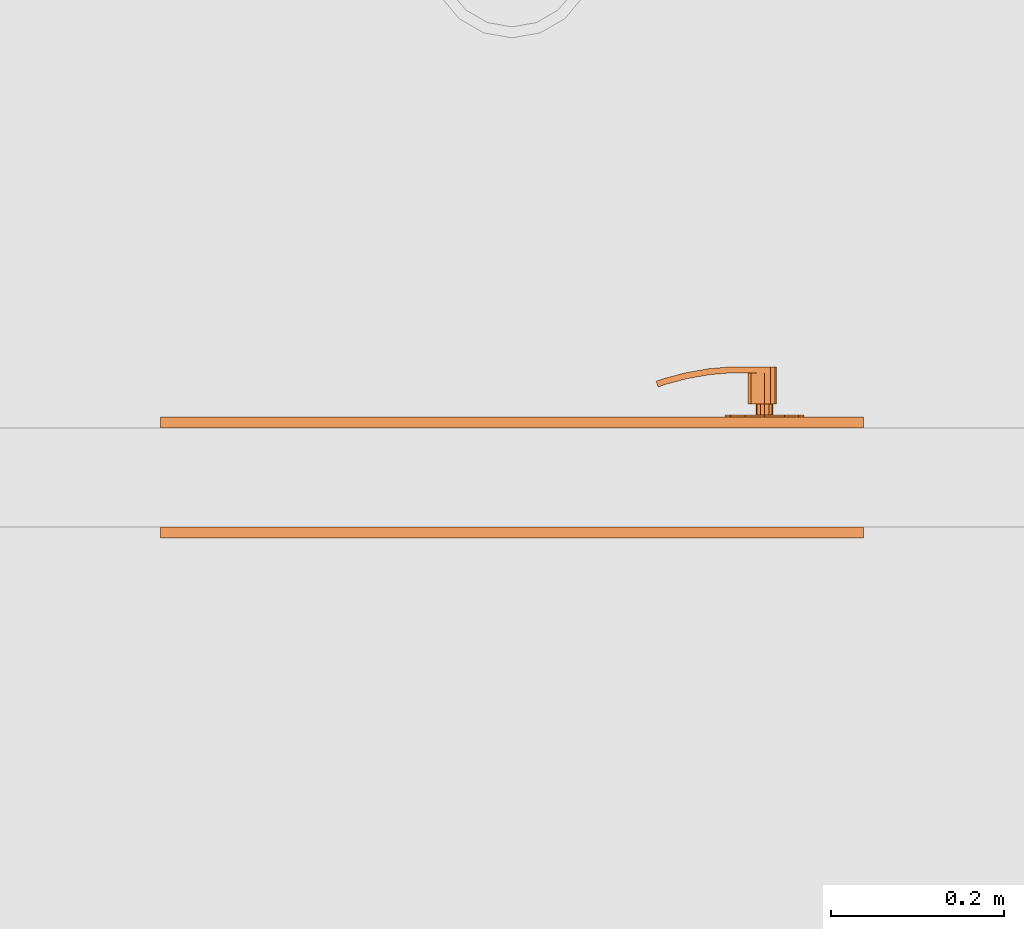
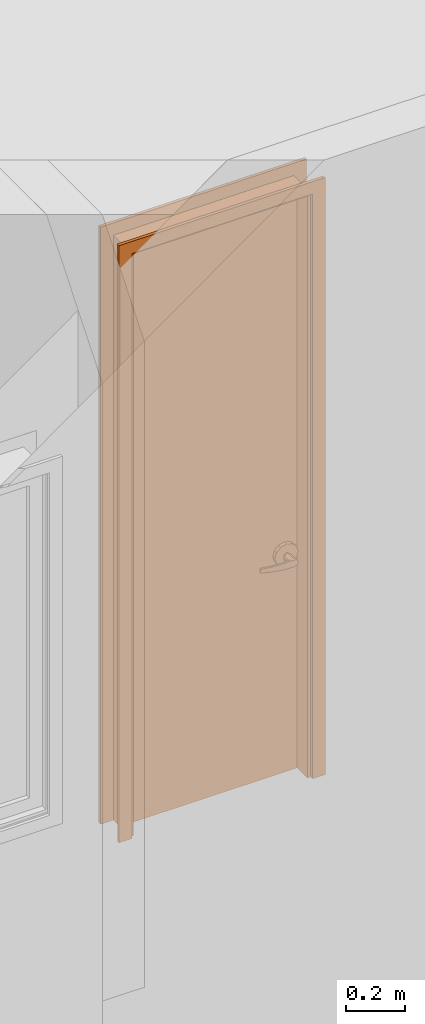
# One storey, part 58 of 103: 1 proxy.
"""IFC2X3 building model written with IfcOpenShell, lengths in inches."""

from ifc_helpers import new_model, entity, si_unit, converted_unit, derived_unit, money_unit, direction, frame, origin_with_axes, place, context, subcontext, project, spatial, open_shell, faceted_brep, surface_model, source, transform, mapped, type_object, element, save


model = new_model("IFC2X3")

# Units and contexts
model_context = context("Model", 3, precision=0.00039370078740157, world=origin_with_axes(), true_north=direction((0.0, 1.0)))
plan_context = context("Plan", 3, precision=0.00039370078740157, world=origin_with_axes(), true_north=direction((0.0, 1.0)))
body_context = subcontext(model_context, "Body", "Model", "MODEL_VIEW")
ifc_project = project(units=[converted_unit("LENGTHUNIT", "INCH", entity("IfcPositiveLengthMeasure", 0.0254), si_unit("LENGTHUNIT", "METRE"), dimensions=[1, 0, 0, 0, 0, 0, 0]), converted_unit("AREAUNIT", "SQUARE_FOOT", entity("IfcPositiveLengthMeasure", 0.09290304), si_unit("AREAUNIT", "SQUARE_METRE"), dimensions=[2, 0, 0, 0, 0, 0, 0]), si_unit("PLANEANGLEUNIT", "RADIAN"), si_unit("SOLIDANGLEUNIT", "STERADIAN"), money_unit("USD"), converted_unit("TIMEUNIT", "Year", entity("IfcTimeMeasure", 31557600.0), si_unit("TIMEUNIT", "SECOND"), dimensions=[0, 0, 1, 0, 0, 0, 0]), si_unit("MASSUNIT", "GRAM", prefix="KILO"), si_unit("THERMODYNAMICTEMPERATUREUNIT", "DEGREE_CELSIUS"), si_unit("LUMINOUSINTENSITYUNIT", "LUMEN"), si_unit("ENERGYUNIT", "JOULE", prefix="MEGA"), derived_unit("SPECIFICHEATCAPACITYUNIT", [(si_unit("ENERGYUNIT", "JOULE"), 1), (si_unit("MASSUNIT", "GRAM", prefix="KILO"), -1), (si_unit("THERMODYNAMICTEMPERATUREUNIT", "KELVIN"), -1)])], contexts=[model_context, plan_context])

# Site, building, storey
site_placement = place(None, origin_with_axes())
site = spatial("IfcSite", under=ifc_project, at=site_placement, Name="Site", CompositionType="ELEMENT")
building_placement = place(site_placement, origin_with_axes())
building = spatial("IfcBuilding", under=site, at=building_placement, Name="Building", CompositionType="ELEMENT")
storey_placement = place(building_placement, frame((0.0, 0.0, 127.9999999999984), z_axis=(0.0, 0.0, 1.0), x_axis=(1.0, 0.0, 0.0)))
storey = spatial("IfcBuildingStorey", under=building, at=storey_placement, Name="Second Floor", CompositionType="ELEMENT", Elevation=128.0)

# Proxy
building_element_proxy_type = type_object("IfcBuildingElementProxyType", Name="D1", PredefinedType="NOTDEFINED")
shared_shape = source(origin_with_axes(), body_context, "Body", "SurfaceModel", [
    faceted_brep([(15.9999999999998, -4.999999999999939, 0.0), (13.99999999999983, -4.999999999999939, 0.0), (13.99999999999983, -4.499999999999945, 0.0), (15.9999999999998, -4.499999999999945, 0.0), (15.9999999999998, -4.999999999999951, 97.99999999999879), (13.99999999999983, -4.999999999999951, 95.9999999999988), (13.99999999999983, -4.499999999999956, 95.9999999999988), (15.9999999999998, -4.499999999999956, 97.99999999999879)], [[[0, 1, 2, 3]], [[0, 4, 5, 1]], [[1, 5, 6, 2]], [[3, 2, 6, 7]], [[4, 0, 3, 7]], [[5, 4, 7, 6]]]),
    faceted_brep([(-15.9999999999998, -4.999999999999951, 97.99999999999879), (-13.99999999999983, -4.999999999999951, 95.9999999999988), (-13.99999999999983, -4.499999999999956, 95.9999999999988), (-15.9999999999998, -4.499999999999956, 97.99999999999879), (-15.9999999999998, -4.999999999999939, 0.0), (-13.99999999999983, -4.999999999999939, 0.0), (-13.99999999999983, -4.499999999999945, 0.0), (-15.9999999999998, -4.499999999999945, 0.0)], [[[0, 1, 2, 3]], [[0, 4, 5, 1]], [[1, 5, 6, 2]], [[3, 2, 6, 7]], [[4, 0, 3, 7]], [[5, 4, 7, 6]]]),
    faceted_brep([(15.9999999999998, -4.999999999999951, 97.99999999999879), (13.99999999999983, -4.999999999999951, 95.9999999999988), (13.99999999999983, -4.499999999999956, 95.9999999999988), (15.9999999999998, -4.499999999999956, 97.99999999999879), (-15.9999999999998, -4.999999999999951, 97.99999999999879), (-13.99999999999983, -4.999999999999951, 95.9999999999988), (-13.99999999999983, -4.499999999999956, 95.9999999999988), (-15.9999999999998, -4.499999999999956, 97.99999999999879)], [[[0, 1, 2, 3]], [[0, 4, 5, 1]], [[1, 5, 6, 2]], [[3, 2, 6, 7]], [[4, 0, 3, 7]], [[5, 4, 7, 6]]]),
    faceted_brep([(15.9999999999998, 0.4999999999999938, 0.0), (15.9999999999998, 0.0, 0.0), (13.99999999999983, 0.0, 0.0), (13.99999999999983, 0.4999999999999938, 0.0), (15.9999999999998, 0.4999999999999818, 97.99999999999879), (15.9999999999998, 0.0, 97.99999999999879), (13.99999999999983, 0.0, 95.9999999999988), (13.99999999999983, 0.4999999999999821, 95.9999999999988)], [[[0, 1, 2, 3]], [[4, 5, 1, 0]], [[1, 5, 6, 2]], [[3, 2, 6, 7]], [[0, 3, 7, 4]], [[7, 6, 5, 4]]]),
    faceted_brep([(-15.9999999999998, 0.4999999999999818, 97.99999999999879), (-15.9999999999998, 0.0, 97.99999999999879), (-13.99999999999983, 0.0, 95.9999999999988), (-13.99999999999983, 0.4999999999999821, 95.9999999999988), (-15.9999999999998, 0.4999999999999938, 0.0), (-15.9999999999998, 0.0, 0.0), (-13.99999999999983, 0.0, 0.0), (-13.99999999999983, 0.4999999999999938, 0.0)], [[[0, 1, 2, 3]], [[4, 5, 1, 0]], [[1, 5, 6, 2]], [[3, 2, 6, 7]], [[0, 3, 7, 4]], [[7, 6, 5, 4]]]),
    faceted_brep([(15.9999999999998, 0.4999999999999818, 97.99999999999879), (15.9999999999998, 0.0, 97.99999999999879), (13.99999999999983, 0.0, 95.9999999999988), (13.99999999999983, 0.4999999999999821, 95.9999999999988), (-15.9999999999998, 0.4999999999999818, 97.99999999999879), (-15.9999999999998, 0.0, 97.99999999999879), (-13.99999999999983, 0.0, 95.9999999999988), (-13.99999999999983, 0.4999999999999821, 95.9999999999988)], [[[0, 1, 2, 3]], [[4, 5, 1, 0]], [[1, 5, 6, 2]], [[3, 2, 6, 7]], [[0, 3, 7, 4]], [[7, 6, 5, 4]]]),
    faceted_brep([(13.99999999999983, 0.0, 0.0), (13.99999999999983, -4.499999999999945, 0.0), (13.49999999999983, -4.499999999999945, 0.0), (13.49999999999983, 0.0, 0.0), (13.99999999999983, 0.0, 95.4999999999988), (13.99999999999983, -4.499999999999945, 95.4999999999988), (13.49999999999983, -4.499999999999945, 95.4999999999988), (13.49999999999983, 0.0, 95.4999999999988)], [[[0, 1, 2, 3]], [[4, 5, 1, 0]], [[1, 5, 6, 2]], [[3, 2, 6, 7]], [[0, 3, 7, 4]], [[7, 6, 5, 4]]]),
    faceted_brep([(-13.99999999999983, 0.0, 0.0), (-13.99999999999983, -4.499999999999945, 0.0), (-13.99999999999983, -4.499999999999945, 95.4999999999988), (-13.99999999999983, 0.0, 95.4999999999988), (-13.49999999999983, 0.0, 0.0), (-13.49999999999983, -4.499999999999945, 0.0), (-13.49999999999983, -4.499999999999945, 95.4999999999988), (-13.49999999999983, 0.0, 95.4999999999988)], [[[0, 1, 2, 3]], [[4, 5, 1, 0]], [[1, 5, 6, 2]], [[3, 2, 6, 7]], [[0, 3, 7, 4]], [[7, 6, 5, 4]]]),
    faceted_brep([(13.99999999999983, 0.0, 95.9999999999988), (13.99999999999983, -4.499999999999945, 95.9999999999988), (13.99999999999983, -4.499999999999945, 95.4999999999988), (13.99999999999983, 0.0, 95.4999999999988), (-13.99999999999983, 0.0, 95.9999999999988), (-13.99999999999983, -4.499999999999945, 95.9999999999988), (-13.99999999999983, -4.499999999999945, 95.4999999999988), (-13.49999999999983, -4.499999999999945, 95.4999999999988), (13.49999999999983, -4.499999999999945, 95.4999999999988), (13.49999999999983, 0.0, 95.4999999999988), (-13.49999999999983, 0.0, 95.4999999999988), (-13.99999999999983, 0.0, 95.4999999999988)], [[[0, 1, 2, 3]], [[4, 5, 1, 0]], [[1, 5, 6, 7, 8, 2]], [[3, 2, 8, 9]], [[0, 3, 9, 10, 11, 4]], [[11, 6, 5, 4]], [[10, 7, 6, 11]], [[9, 8, 7, 10]]]),
    surface_model("IfcShellBasedSurfaceModel", [(9.94865528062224, -2.340551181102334, 36.89566929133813), (9.94865528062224, -2.336614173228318, 36.89566929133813), (9.708661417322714, -2.336614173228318, 35.99999999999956), (9.708661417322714, -2.340551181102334, 35.99999999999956), (10.60433070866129, -2.340551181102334, 37.55134471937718), (10.60433070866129, -2.336614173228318, 37.55134471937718), (9.94865528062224, -1.753937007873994, 36.89566929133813), (9.708661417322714, -1.753937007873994, 35.99999999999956), (9.948655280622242, -2.336614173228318, 35.10433070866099), (9.948655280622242, -2.340551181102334, 35.10433070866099), (10.60433070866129, -2.340551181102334, 34.44865528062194), (11.49999999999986, -2.340551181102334, 34.20866141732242), (12.39566929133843, -2.340551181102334, 34.44865528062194), (13.05134471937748, -2.340551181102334, 35.10433070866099), (13.291338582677, -2.340551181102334, 35.99999999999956), (13.05134471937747, -2.340551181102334, 36.89566929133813), (12.39566929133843, -2.340551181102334, 37.55134471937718), (11.49999999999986, -2.340551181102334, 37.7913385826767), (11.49999999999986, -2.336614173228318, 37.7913385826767), (10.60433070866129, -1.753937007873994, 37.55134471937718), (9.94865528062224, -1.749999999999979, 36.89566929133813), (9.708661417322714, -1.749999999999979, 35.99999999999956), (9.948655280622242, -1.753937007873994, 35.10433070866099), (10.60433070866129, -2.336614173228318, 34.44865528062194), (11.49999999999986, -2.336614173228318, 34.20866141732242), (12.39566929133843, -2.336614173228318, 34.44865528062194), (13.05134471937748, -2.336614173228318, 35.10433070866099), (13.291338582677, -2.336614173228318, 35.99999999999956), (13.05134471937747, -2.336614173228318, 36.89566929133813), (12.39566929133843, -2.336614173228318, 37.55134471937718), (11.49999999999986, -1.753937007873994, 37.7913385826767), (10.60433070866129, -1.749999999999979, 37.55134471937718), (9.948655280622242, -1.749999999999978, 35.10433070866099), (10.60433070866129, -1.753937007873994, 34.44865528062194), (11.49999999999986, -1.753937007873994, 34.20866141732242), (12.39566929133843, -1.753937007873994, 34.44865528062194), (13.05134471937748, -1.753937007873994, 35.10433070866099), (13.291338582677, -1.753937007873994, 35.99999999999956), (13.05134471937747, -1.753937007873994, 36.89566929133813), (12.39566929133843, -1.753937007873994, 37.55134471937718), (11.49999999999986, -1.749999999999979, 37.7913385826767), (10.60433070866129, -1.749999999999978, 34.44865528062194), (11.49999999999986, -1.749999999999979, 34.20866141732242), (12.39566929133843, -1.749999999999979, 34.44865528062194), (13.05134471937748, -1.749999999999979, 35.10433070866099), (13.291338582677, -1.749999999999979, 35.99999999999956), (13.05134471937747, -1.749999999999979, 36.89566929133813), (12.39566929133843, -1.749999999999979, 37.55134471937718)], [open_shell([[[0, 1, 2, 3]], [[4, 5, 1, 0]], [[1, 6, 7, 2]], [[3, 2, 8, 9]], [[3, 9, 10, 11, 12, 13, 14, 15, 16, 17, 4, 0]], [[17, 18, 5, 4]], [[5, 19, 6, 1]], [[6, 20, 21, 7]], [[2, 7, 22, 8]], [[9, 8, 23, 10]], [[10, 23, 24, 11]], [[11, 24, 25, 12]], [[12, 25, 26, 13]], [[13, 26, 27, 14]], [[14, 27, 28, 15]], [[15, 28, 29, 16]], [[16, 29, 18, 17]], [[18, 30, 19, 5]], [[19, 31, 20, 6]], [[7, 21, 32, 22]], [[8, 22, 33, 23]], [[23, 33, 34, 24]], [[24, 34, 35, 25]], [[25, 35, 36, 26]], [[26, 36, 37, 27]], [[27, 37, 38, 28]], [[28, 38, 39, 29]], [[29, 39, 30, 18]], [[30, 40, 31, 19]], [[22, 32, 41, 33]], [[33, 41, 42, 34]], [[34, 42, 43, 35]], [[35, 43, 44, 36]], [[36, 44, 45, 37]], [[37, 45, 46, 38]], [[38, 46, 47, 39]], [[39, 47, 40, 30]]])]),
    faceted_brep([(11.69685039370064, -2.340551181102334, 35.65904511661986), (11.49999999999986, -2.340551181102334, 35.60629921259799), (11.30314960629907, -2.340551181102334, 35.65904511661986), (11.15904511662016, -2.340551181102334, 35.80314960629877), (11.10629921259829, -2.340551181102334, 35.99999999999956), (11.15904511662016, -2.340551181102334, 36.19685039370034), (11.30314960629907, -2.340551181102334, 36.34095488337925), (11.49999999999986, -2.340551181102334, 36.39370078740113), (11.69685039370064, -2.340551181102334, 36.34095488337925), (11.84095488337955, -2.340551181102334, 36.19685039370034), (11.89370078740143, -2.340551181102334, 35.99999999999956), (11.84095488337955, -2.340551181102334, 35.80314960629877), (11.69685039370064, -2.852362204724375, 35.65904511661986), (11.49999999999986, -2.852362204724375, 35.60629921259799), (11.30314960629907, -2.852362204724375, 35.65904511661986), (11.15904511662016, -2.852362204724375, 35.80314960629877), (11.10629921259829, -2.852362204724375, 35.99999999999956), (11.15904511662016, -2.852362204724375, 36.19685039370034), (11.30314960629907, -2.852362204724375, 36.34095488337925), (11.49999999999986, -2.852362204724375, 36.39370078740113), (11.69685039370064, -2.852362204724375, 36.34095488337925), (11.84095488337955, -2.852362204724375, 36.19685039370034), (11.89370078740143, -2.852362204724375, 35.99999999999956), (11.84095488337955, -2.852362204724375, 35.80314960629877)], [[[0, 1, 2, 3, 4, 5, 6, 7, 8, 9, 10, 11]], [[0, 12, 13, 1]], [[1, 13, 14, 2]], [[2, 14, 15, 3]], [[3, 15, 16, 4]], [[4, 16, 17, 5]], [[5, 17, 18, 6]], [[6, 18, 19, 7]], [[7, 19, 20, 8]], [[8, 20, 21, 9]], [[9, 21, 22, 10]], [[10, 22, 23, 11]], [[11, 23, 12, 0]], [[12, 23, 22, 21, 20, 19, 18, 17, 16, 15, 14, 13]]]),
    faceted_brep([(11.49999999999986, -2.852362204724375, 36.55118110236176), (11.49999999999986, -4.269685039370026, 36.55118110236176), (11.77559055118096, -4.269685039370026, 36.47733683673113), (11.77559055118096, -2.852362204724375, 36.47733683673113), (11.10629921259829, -2.852362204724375, 36.47244094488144), (11.10629921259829, -4.269685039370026, 36.47244094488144), (10.87352117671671, -4.269685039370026, 36.35358914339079), (10.73705189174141, -4.269685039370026, 36.13068221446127), (10.73705189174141, -4.269685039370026, 35.86931778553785), (10.87352117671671, -4.269685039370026, 35.64641085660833), (11.10629921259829, -4.269685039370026, 35.52755905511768), (11.49999999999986, -4.269685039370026, 35.44881889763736), (11.77559055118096, -4.269685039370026, 35.52266316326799), (11.97733683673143, -4.269685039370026, 35.72440944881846), (12.05118110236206, -4.269685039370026, 35.99999999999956), (11.97733683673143, -4.269685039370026, 36.27559055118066), (11.97733683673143, -2.852362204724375, 36.27559055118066), (12.05118110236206, -2.852362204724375, 35.99999999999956), (11.97733683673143, -2.852362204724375, 35.72440944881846), (11.77559055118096, -2.852362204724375, 35.52266316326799), (11.49999999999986, -2.852362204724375, 35.44881889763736), (11.10629921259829, -2.852362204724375, 35.52755905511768), (10.87352117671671, -2.852362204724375, 35.64641085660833), (10.73705189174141, -2.852362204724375, 35.86931778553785), (10.73705189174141, -2.852362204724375, 36.13068221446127), (10.87352117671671, -2.852362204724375, 36.35358914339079)], [[[0, 1, 2, 3]], [[4, 5, 1, 0]], [[1, 5, 6, 7, 8, 9, 10, 11, 12, 13, 14, 15, 2]], [[3, 2, 15, 16]], [[0, 3, 16, 17, 18, 19, 20, 21, 22, 23, 24, 25, 4]], [[25, 6, 5, 4]], [[24, 7, 6, 25]], [[23, 8, 7, 24]], [[22, 9, 8, 23]], [[21, 10, 9, 22]], [[20, 11, 10, 21]], [[19, 12, 11, 20]], [[18, 13, 12, 19]], [[17, 14, 13, 18]], [[16, 15, 14, 17]]]),
    surface_model("IfcShellBasedSurfaceModel", [(11.49999999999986, -4.269685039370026, 36.55118110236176), (11.49999999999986, -4.545275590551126, 36.55118110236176), (11.77559055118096, -4.545275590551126, 36.47733683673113), (11.77559055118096, -4.269685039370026, 36.47733683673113), (10.51574803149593, -4.269685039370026, 36.55118110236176), (10.51574803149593, -4.545275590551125, 36.55118110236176), (10.51574803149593, -4.545275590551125, 35.44881889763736), (11.49999999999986, -4.545275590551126, 35.44881889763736), (11.77559055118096, -4.545275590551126, 35.52266316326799), (11.97733683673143, -4.545275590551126, 35.72440944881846), (12.05118110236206, -4.545275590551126, 35.99999999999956), (11.97733683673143, -4.545275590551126, 36.27559055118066), (11.97733683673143, -4.269685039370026, 36.27559055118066), (12.05118110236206, -4.269685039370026, 35.99999999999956), (11.97733683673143, -4.269685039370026, 35.72440944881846), (11.77559055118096, -4.269685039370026, 35.52266316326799), (11.49999999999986, -4.269685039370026, 35.44881889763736), (10.51574803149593, -4.269685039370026, 35.44881889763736)], [open_shell([[[0, 1, 2, 3]], [[4, 5, 1, 0]], [[1, 5, 6, 7, 8, 9, 10, 11, 2]], [[3, 2, 11, 12]], [[0, 3, 12, 13, 14, 15, 16, 17, 4]], [[16, 7, 6, 17]], [[15, 8, 7, 16]], [[14, 9, 8, 15]], [[13, 10, 9, 14]], [[12, 11, 10, 13]]])]),
    surface_model("IfcShellBasedSurfaceModel", [(10.51574803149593, -4.269685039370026, 35.44881889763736), (9.988035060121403, -4.545275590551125, 35.47974008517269), (10.00006760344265, -4.269685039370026, 35.47974008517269), (10.51574803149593, -4.545275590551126, 35.44881889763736), (8.93662533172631, -4.453289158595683, 35.54158246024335), (10.00006760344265, -4.269685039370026, 36.52025991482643), (10.51574803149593, -4.269685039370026, 36.55118110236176), (10.51574803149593, -4.545275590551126, 36.55118110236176), (9.988035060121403, -4.545275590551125, 36.52025991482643), (8.93662533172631, -4.453289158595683, 36.45841753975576), (8.972631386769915, -4.179796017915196, 35.54158246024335), (8.972631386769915, -4.179796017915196, 36.45841753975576), (7.897233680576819, -4.270016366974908, 36.3965751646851), (7.897233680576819, -4.270016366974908, 35.60342483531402), (7.956939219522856, -4.000702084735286, 35.60342483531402), (7.956939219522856, -4.000702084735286, 36.3965751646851), (6.877770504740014, -3.996852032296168, 36.33473278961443), (6.877770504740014, -3.996852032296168, 35.66526721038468), (6.960721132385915, -3.733766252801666, 35.66526721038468), (6.960721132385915, -3.733766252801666, 36.33473278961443), (6.560582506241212, -3.881405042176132, 36.31496062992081), (6.560582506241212, -3.881405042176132, 35.6850393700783), (6.650765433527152, -3.620951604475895, 35.6850393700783), (6.650765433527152, -3.620951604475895, 36.31496062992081)], [open_shell([[[0, 1, 2]], [[0, 3, 1]], [[2, 1, 4]], [[0, 2, 5, 6]], [[3, 7, 8, 1]], [[1, 8, 9, 4]], [[2, 4, 10]], [[2, 10, 11, 5]], [[5, 7, 6]], [[5, 8, 7]], [[11, 9, 8]], [[4, 9, 12, 13]], [[10, 4, 13]], [[10, 14, 15, 11]], [[11, 8, 5]], [[15, 9, 11]], [[15, 12, 9]], [[13, 12, 16, 17]], [[10, 13, 14]], [[14, 18, 19, 15]], [[19, 12, 15]], [[19, 16, 12]], [[17, 16, 20, 21]], [[14, 13, 17]], [[14, 17, 18]], [[18, 22, 23, 19]], [[23, 16, 19]], [[23, 20, 16]], [[22, 21, 20, 23]], [[18, 17, 21]], [[18, 21, 22]]])]),
    surface_model("IfcShellBasedSurfaceModel", [(9.948655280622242, 0.5905511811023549, 36.89566929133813), (9.708661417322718, 0.5905511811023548, 35.99999999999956), (9.708661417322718, 0.5866141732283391, 35.99999999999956), (9.948655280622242, 0.5866141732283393, 36.89566929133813), (10.60433070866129, 0.5905511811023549, 37.55134471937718), (11.49999999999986, 0.590551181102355, 37.7913385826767), (12.39566929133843, 0.590551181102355, 37.55134471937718), (13.05134471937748, 0.590551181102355, 36.89566929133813), (13.291338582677, 0.590551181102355, 35.99999999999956), (13.05134471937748, 0.5905511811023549, 35.10433070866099), (12.39566929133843, 0.5905511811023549, 34.44865528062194), (11.49999999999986, 0.5905511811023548, 34.20866141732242), (10.60433070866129, 0.5905511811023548, 34.44865528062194), (9.948655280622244, 0.5905511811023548, 35.10433070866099), (9.948655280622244, 0.5866141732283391, 35.10433070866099), (9.708661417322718, 0.00393700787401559, 35.99999999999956), (9.948655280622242, 0.00393700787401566, 36.89566929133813), (10.60433070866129, 0.5866141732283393, 37.55134471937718), (11.49999999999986, 0.5866141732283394, 37.7913385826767), (12.39566929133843, 0.5866141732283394, 37.55134471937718), (13.05134471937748, 0.5866141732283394, 36.89566929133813), (13.291338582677, 0.5866141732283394, 35.99999999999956), (13.05134471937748, 0.5866141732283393, 35.10433070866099), (12.39566929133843, 0.5866141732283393, 34.44865528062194), (11.49999999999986, 0.5866141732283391, 34.20866141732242), (10.60433070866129, 0.5866141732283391, 34.44865528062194), (9.948655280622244, 0.00393700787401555, 35.10433070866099), (9.708661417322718, 0.0, 35.99999999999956), (9.948655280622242, 0.0, 36.89566929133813), (10.60433070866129, 0.00393700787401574, 37.55134471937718), (11.49999999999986, 0.00393700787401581, 37.7913385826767), (12.39566929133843, 0.00393700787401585, 37.55134471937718), (13.05134471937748, 0.00393700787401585, 36.89566929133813), (13.291338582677, 0.00393700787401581, 35.99999999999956), (13.05134471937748, 0.00393700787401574, 35.10433070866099), (12.39566929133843, 0.00393700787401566, 34.44865528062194), (11.49999999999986, 0.00393700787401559, 34.20866141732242), (10.60433070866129, 0.00393700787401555, 34.44865528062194), (9.948655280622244, 0.0, 35.10433070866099), (10.60433070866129, 0.0, 37.55134471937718), (11.49999999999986, 0.0, 37.7913385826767), (12.39566929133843, 0.0, 37.55134471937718), (13.05134471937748, 0.0, 36.89566929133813), (13.291338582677, 0.0, 35.99999999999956), (13.05134471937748, 0.0, 35.10433070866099), (12.39566929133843, 0.0, 34.44865528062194), (11.49999999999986, 0.0, 34.20866141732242), (10.60433070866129, 0.0, 34.44865528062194)], [open_shell([[[0, 1, 2, 3]], [[1, 0, 4, 5, 6, 7, 8, 9, 10, 11, 12, 13]], [[1, 13, 14, 2]], [[3, 2, 15, 16]], [[4, 0, 3, 17]], [[5, 4, 17, 18]], [[6, 5, 18, 19]], [[7, 6, 19, 20]], [[8, 7, 20, 21]], [[9, 8, 21, 22]], [[10, 9, 22, 23]], [[11, 10, 23, 24]], [[12, 11, 24, 25]], [[13, 12, 25, 14]], [[2, 14, 26, 15]], [[16, 15, 27, 28]], [[17, 3, 16, 29]], [[18, 17, 29, 30]], [[19, 18, 30, 31]], [[20, 19, 31, 32]], [[21, 20, 32, 33]], [[22, 21, 33, 34]], [[23, 22, 34, 35]], [[24, 23, 35, 36]], [[25, 24, 36, 37]], [[14, 25, 37, 26]], [[15, 26, 38, 27]], [[29, 16, 28, 39]], [[30, 29, 39, 40]], [[31, 30, 40, 41]], [[32, 31, 41, 42]], [[33, 32, 42, 43]], [[34, 33, 43, 44]], [[35, 34, 44, 45]], [[36, 35, 45, 46]], [[37, 36, 46, 47]], [[26, 37, 47, 38]]])]),
    faceted_brep([(11.69685039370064, 0.5905511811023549, 35.65904511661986), (11.84095488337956, 0.5905511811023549, 35.80314960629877), (11.89370078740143, 0.5905511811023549, 35.99999999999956), (11.84095488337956, 0.5905511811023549, 36.19685039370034), (11.69685039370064, 0.5905511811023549, 36.34095488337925), (11.49999999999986, 0.5905511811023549, 36.39370078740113), (11.30314960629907, 0.5905511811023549, 36.34095488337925), (11.15904511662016, 0.5905511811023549, 36.19685039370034), (11.10629921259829, 0.5905511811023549, 35.99999999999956), (11.15904511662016, 0.5905511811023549, 35.80314960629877), (11.30314960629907, 0.5905511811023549, 35.65904511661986), (11.49999999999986, 0.5905511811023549, 35.60629921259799), (11.69685039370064, 1.102362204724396, 35.65904511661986), (11.84095488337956, 1.102362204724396, 35.80314960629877), (11.89370078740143, 1.102362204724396, 35.99999999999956), (11.84095488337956, 1.102362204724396, 36.19685039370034), (11.69685039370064, 1.102362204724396, 36.34095488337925), (11.49999999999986, 1.102362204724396, 36.39370078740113), (11.30314960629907, 1.102362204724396, 36.34095488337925), (11.15904511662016, 1.102362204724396, 36.19685039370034), (11.10629921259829, 1.102362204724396, 35.99999999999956), (11.15904511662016, 1.102362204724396, 35.80314960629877), (11.30314960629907, 1.102362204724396, 35.65904511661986), (11.49999999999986, 1.102362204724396, 35.60629921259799)], [[[0, 1, 2, 3, 4, 5, 6, 7, 8, 9, 10, 11]], [[1, 0, 12, 13]], [[2, 1, 13, 14]], [[3, 2, 14, 15]], [[4, 3, 15, 16]], [[5, 4, 16, 17]], [[6, 5, 17, 18]], [[7, 6, 18, 19]], [[8, 7, 19, 20]], [[9, 8, 20, 21]], [[10, 9, 21, 22]], [[11, 10, 22, 23]], [[0, 11, 23, 12]], [[12, 23, 22, 21, 20, 19, 18, 17, 16, 15, 14, 13]]]),
    faceted_brep([(11.49999999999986, 1.102362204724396, 36.55118110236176), (11.77559055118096, 1.102362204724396, 36.47733683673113), (11.77559055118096, 2.519685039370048, 36.47733683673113), (11.49999999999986, 2.519685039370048, 36.55118110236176), (11.10629921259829, 1.102362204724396, 36.47244094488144), (10.87352117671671, 1.102362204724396, 36.35358914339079), (10.73705189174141, 1.102362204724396, 36.13068221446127), (10.73705189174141, 1.102362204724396, 35.86931778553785), (10.87352117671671, 1.102362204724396, 35.64641085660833), (11.10629921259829, 1.102362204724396, 35.52755905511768), (11.49999999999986, 1.102362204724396, 35.44881889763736), (11.77559055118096, 1.102362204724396, 35.52266316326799), (11.97733683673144, 1.102362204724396, 35.72440944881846), (12.05118110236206, 1.102362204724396, 35.99999999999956), (11.97733683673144, 1.102362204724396, 36.27559055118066), (11.97733683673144, 2.519685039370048, 36.27559055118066), (12.05118110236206, 2.519685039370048, 35.99999999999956), (11.97733683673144, 2.519685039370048, 35.72440944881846), (11.77559055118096, 2.519685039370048, 35.52266316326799), (11.49999999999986, 2.519685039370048, 35.44881889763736), (11.10629921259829, 2.519685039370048, 35.52755905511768), (10.87352117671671, 2.519685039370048, 35.64641085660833), (10.73705189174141, 2.519685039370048, 35.86931778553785), (10.73705189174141, 2.519685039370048, 36.13068221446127), (10.87352117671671, 2.519685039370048, 36.35358914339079), (11.10629921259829, 2.519685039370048, 36.47244094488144)], [[[0, 1, 2, 3]], [[0, 4, 5, 6, 7, 8, 9, 10, 11, 12, 13, 14, 1]], [[1, 14, 15, 2]], [[3, 2, 15, 16, 17, 18, 19, 20, 21, 22, 23, 24, 25]], [[4, 0, 3, 25]], [[5, 4, 25, 24]], [[6, 5, 24, 23]], [[7, 6, 23, 22]], [[8, 7, 22, 21]], [[9, 8, 21, 20]], [[10, 9, 20, 19]], [[11, 10, 19, 18]], [[12, 11, 18, 17]], [[13, 12, 17, 16]], [[14, 13, 16, 15]]]),
    surface_model("IfcShellBasedSurfaceModel", [(11.49999999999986, 2.519685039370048, 36.55118110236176), (11.77559055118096, 2.519685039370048, 36.47733683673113), (11.77559055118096, 2.795275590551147, 36.47733683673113), (11.49999999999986, 2.795275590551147, 36.55118110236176), (10.51574803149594, 2.519685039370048, 36.55118110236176), (10.51574803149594, 2.519685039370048, 35.44881889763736), (11.49999999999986, 2.519685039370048, 35.44881889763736), (11.77559055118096, 2.519685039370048, 35.52266316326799), (11.97733683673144, 2.519685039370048, 35.72440944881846), (12.05118110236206, 2.519685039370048, 35.99999999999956), (11.97733683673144, 2.519685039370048, 36.27559055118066), (11.97733683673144, 2.795275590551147, 36.27559055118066), (12.05118110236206, 2.795275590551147, 35.99999999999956), (11.97733683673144, 2.795275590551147, 35.72440944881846), (11.77559055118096, 2.795275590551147, 35.52266316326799), (11.49999999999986, 2.795275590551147, 35.44881889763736), (10.51574803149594, 2.795275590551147, 35.44881889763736), (10.51574803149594, 2.795275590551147, 36.55118110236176)], [open_shell([[[0, 1, 2, 3]], [[0, 4, 5, 6, 7, 8, 9, 10, 1]], [[1, 10, 11, 2]], [[3, 2, 11, 12, 13, 14, 15, 16, 17]], [[4, 0, 3, 17]], [[6, 5, 16, 15]], [[7, 6, 15, 14]], [[8, 7, 14, 13]], [[9, 8, 13, 12]], [[10, 9, 12, 11]]])]),
    surface_model("IfcShellBasedSurfaceModel", [(10.51574803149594, 2.519685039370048, 35.44881889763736), (10.00006760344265, 2.519685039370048, 35.47974008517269), (9.988035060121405, 2.795275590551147, 35.47974008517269), (10.51574803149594, 2.519685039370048, 36.55118110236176), (10.00006760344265, 2.519685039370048, 36.52025991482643), (8.936625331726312, 2.703289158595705, 35.54158246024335), (10.51574803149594, 2.795275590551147, 35.44881889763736), (10.51574803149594, 2.795275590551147, 36.55118110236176), (8.972631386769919, 2.429796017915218, 36.45841753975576), (8.972631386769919, 2.429796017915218, 35.54158246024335), (8.936625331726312, 2.703289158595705, 36.45841753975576), (9.988035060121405, 2.795275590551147, 36.52025991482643), (7.956939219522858, 2.250702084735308, 36.3965751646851), (7.956939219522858, 2.250702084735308, 35.60342483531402), (7.897233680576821, 2.52001636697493, 35.60342483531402), (7.897233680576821, 2.52001636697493, 36.3965751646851), (6.960721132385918, 1.983766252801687, 36.33473278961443), (6.960721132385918, 1.983766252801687, 35.66526721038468), (6.877770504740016, 2.24685203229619, 35.66526721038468), (6.877770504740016, 2.24685203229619, 36.33473278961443), (6.650765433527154, 1.870951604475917, 36.31496062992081), (6.650765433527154, 1.870951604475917, 35.6850393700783), (6.560582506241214, 2.131405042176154, 35.6850393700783), (6.560582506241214, 2.131405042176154, 36.31496062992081)], [open_shell([[[0, 1, 2]], [[0, 3, 4, 1]], [[1, 5, 2]], [[0, 2, 6]], [[4, 3, 7]], [[1, 4, 8, 9]], [[1, 9, 5]], [[2, 5, 10, 11]], [[6, 2, 11, 7]], [[4, 7, 11]], [[8, 4, 11]], [[9, 8, 12, 13]], [[9, 14, 5]], [[5, 14, 15, 10]], [[8, 11, 10]], [[12, 8, 10]], [[13, 12, 16, 17]], [[9, 13, 14]], [[14, 18, 19, 15]], [[12, 10, 15]], [[16, 12, 15]], [[17, 16, 20, 21]], [[13, 17, 18]], [[13, 18, 14]], [[18, 22, 23, 19]], [[16, 15, 19]], [[20, 16, 19]], [[21, 20, 23, 22]], [[17, 21, 22]], [[17, 22, 18]], [[20, 19, 23]]])]),
    faceted_brep([(13.46062992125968, -1.749999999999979, 0.03937007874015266), (13.46062992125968, -1.749999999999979, 95.46062992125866), (-13.46062992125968, -1.749999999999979, 95.46062992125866), (-13.46062992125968, -1.749999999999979, 0.03937007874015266), (13.46062992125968, 0.0, 0.03937007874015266), (13.46062992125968, 0.0, 95.46062992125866), (-13.46062992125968, 0.0, 95.46062992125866), (-13.46062992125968, 0.0, 0.03937007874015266)], [[[0, 1, 2, 3]], [[4, 5, 1, 0]], [[2, 1, 5, 6]], [[3, 2, 6, 7]], [[7, 4, 0, 3]], [[7, 6, 5, 4]]]),
    faceted_brep([(-13.49999999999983, 0.0, 0.0), (13.49999999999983, 0.0, 0.0), (13.49999999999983, -1.749999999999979, 0.0), (-13.49999999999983, -1.749999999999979, 0.0), (-13.49999999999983, 0.0, 95.4999999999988), (13.49999999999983, 0.0, 95.4999999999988), (-13.46062992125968, 0.0, 0.039370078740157), (13.46062992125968, 0.0, 0.039370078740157), (13.46062992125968, 0.0, 95.46062992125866), (-13.46062992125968, 0.0, 95.46062992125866), (13.49999999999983, -1.749999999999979, 95.4999999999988), (-13.49999999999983, -1.749999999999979, 95.4999999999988), (-13.46062992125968, -1.749999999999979, 0.039370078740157), (-13.46062992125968, -1.749999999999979, 95.46062992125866), (13.46062992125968, -1.749999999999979, 95.46062992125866), (13.46062992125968, -1.749999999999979, 0.039370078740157)], [[[0, 1, 2, 3]], [[0, 4, 5, 1], [6, 7, 8, 9]], [[1, 5, 10, 2]], [[3, 2, 10, 11], [12, 13, 14, 15]], [[4, 0, 3, 11]], [[5, 4, 11, 10]], [[7, 6, 12, 15]], [[8, 7, 15, 14]], [[9, 8, 14, 13]], [[6, 9, 13, 12]]]),
])
proxy_placement = place(storey_placement, frame((266.9999999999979, 35.99999999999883, 0.0), z_axis=(0.0, 0.0, 1.0), x_axis=(1.0, 0.0, 0.0)))
element("IfcBuildingElementProxy", 1, at=proxy_placement, inside=storey, type_object=building_element_proxy_type, Name="D-07", context=body_context, shape_type="MappedRepresentation", body=[
    mapped(shared_shape, transform((13.99999999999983, 0.0, 0.0))),
])

save(model, "model.ifc")
